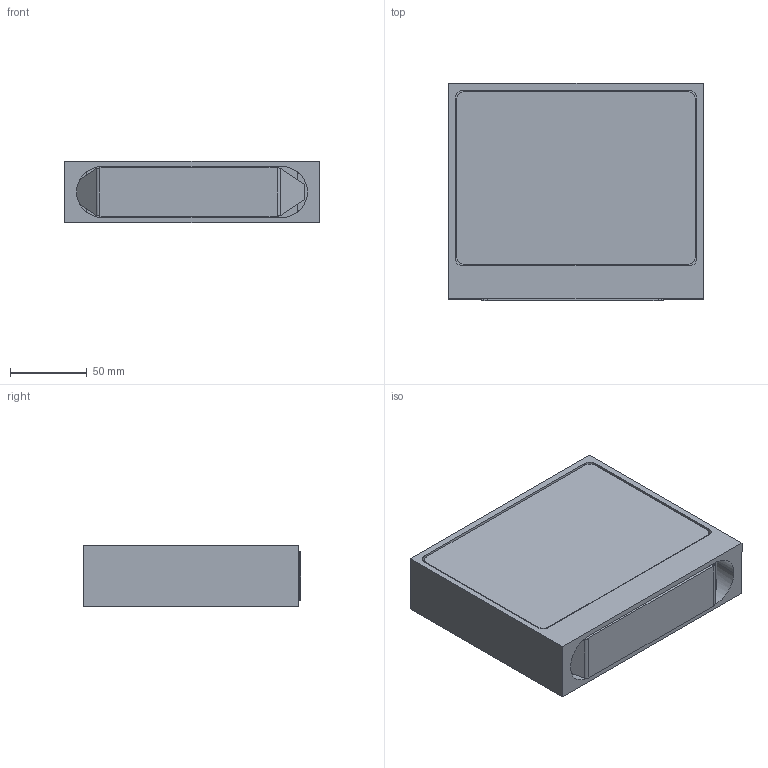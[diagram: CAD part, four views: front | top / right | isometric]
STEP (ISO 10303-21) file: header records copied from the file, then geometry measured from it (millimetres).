
FILE_DESCRIPTION (( 'STEP AP214' ), '1' );
FILE_NAME ('3D_FIX_HALO.STEP', '2018-03-12T16:50:39', ( 'Utente' ), ( '' ), 'SwSTEP 2.0', 'SolidWorks 2016', '' );
FILE_SCHEMA (( 'AUTOMOTIVE_DESIGN' ));
Length unit declared in the file: millimetre
Products named in the file (3): Vetro la fenice fix alogenaMARTIMM-1^3D_FIX_HALO; Group1^3D_FIX_HALO; 3D_FIX_HALO
Assembly tree (2 placements, depth 2):
  3D_FIX_HALO
    Group1^3D_FIX_HALO
    Vetro la fenice fix alogenaMARTIMM-1^3D_FIX_HALO
Bounding box: 165 x 141.03 x 40 mm (x, y, z)
Volume: 360312.2 mm3; surface area: 139524.9 mm2
Topology: 3 solids, 3 shells, 79 faces, 197 edges, 126 vertices
Faces by surface type: plane 46, cylinder 29, bspline 4
Entity records: 2568 total; most frequent: CARTESIAN_POINT 547, DIRECTION 403, ORIENTED_EDGE 394, EDGE_CURVE 197, LINE 135, VECTOR 135, AXIS2_PLACEMENT_3D 134, VERTEX_POINT 126
